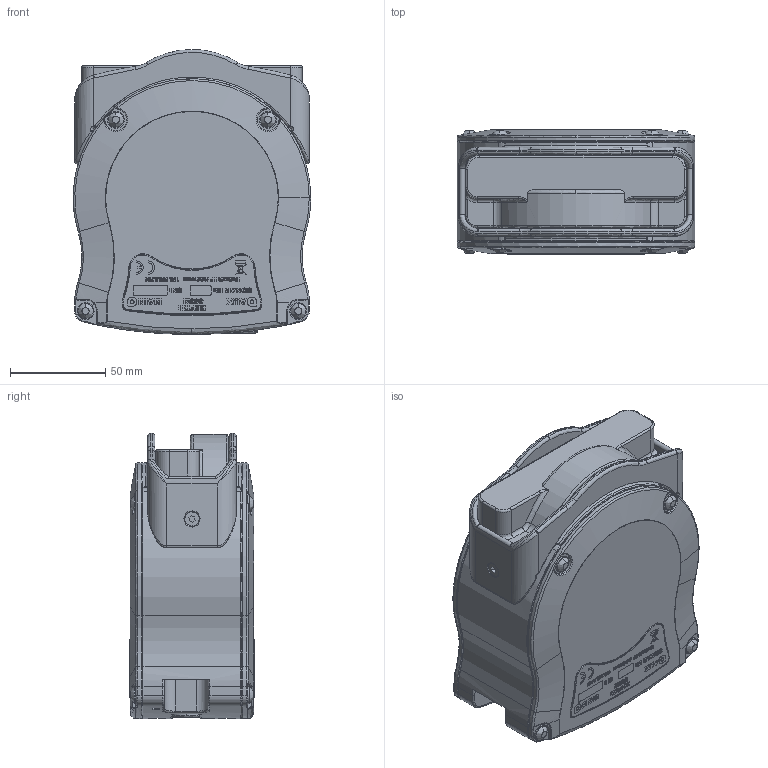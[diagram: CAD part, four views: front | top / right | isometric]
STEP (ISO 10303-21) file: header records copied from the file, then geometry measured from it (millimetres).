
FILE_DESCRIPTION (( 'STEP AP214' ), '1' );
FILE_NAME ('Gemini 720ik Sonar - No conn.STEP', '2017-02-15T08:55:58', ( 'Allan' ), ( 'Microsoft' ), 'SwSTEP 2.0', 'SolidWorks 2015', '' );
FILE_SCHEMA (( 'AUTOMOTIVE_DESIGN' ));
Length unit declared in the file: millimetre
Products named in the file (6): 11573 Gemini 720ik Brand Label mock-up_1; 11574 Gemini 720ik Product Label mock-up_1; XXXXX M4x10 Socket C''''sunk A4_B18.6.7M - M3 x 0.5 x 12 Type I Cross Recessed FHMS --20N; 11566 G2 720ik Front Cover_1; Gemini 720ik Housing Space Model_1; Gemini 720ik Sonar - No conn
Assembly tree (6 placements, depth 2):
  Gemini 720ik Sonar - No conn
    Gemini 720ik Housing Space Model_1
    11566 G2 720ik Front Cover_1
    XXXXX M4x10 Socket C''''sunk A4_B18.6.7M - M3 x 0.5 x 12 Type I Cross Recessed FHMS --20N  x2
    11574 Gemini 720ik Product Label mock-up_1
    11573 Gemini 720ik Brand Label mock-up_1
Bounding box: 124.96 x 65.4 x 150.01 mm (x, y, z)
Volume: 408836.4 mm3; surface area: 150579.5 mm2
Topology: 6 solids, 7 shells, 2223 faces, 5751 edges, 3676 vertices
Faces by surface type: plane 898, bspline 883, cylinder 392, cone 50
Entity records: 127211 total; most frequent: CARTESIAN_POINT 54428, ORIENTED_EDGE 11370, DIRECTION 7861, EDGE_CURVE 5685, VERTEX_POINT 3654, VECTOR 2997, LINE 2997, AXIS2_PLACEMENT_3D 2432
